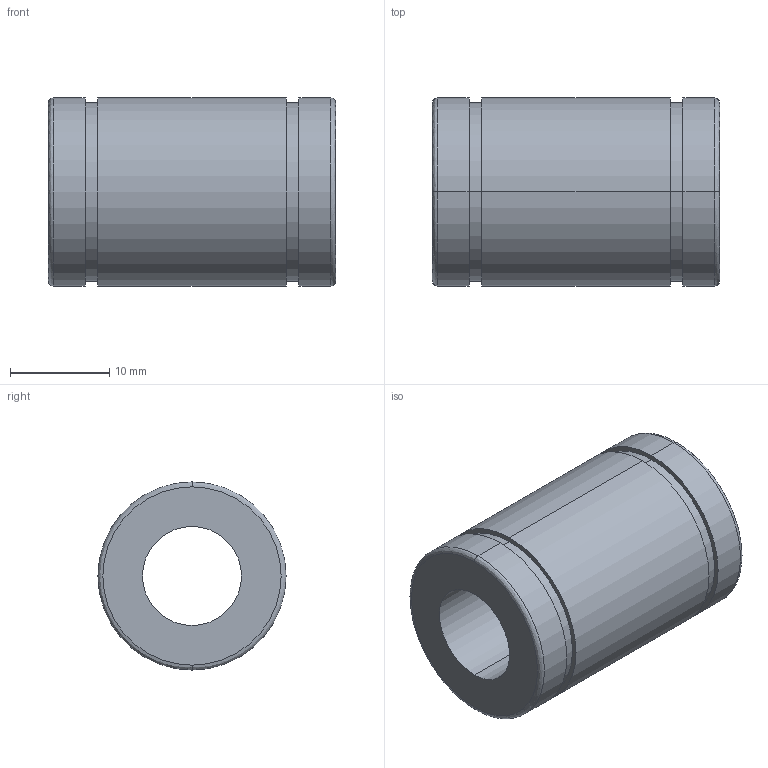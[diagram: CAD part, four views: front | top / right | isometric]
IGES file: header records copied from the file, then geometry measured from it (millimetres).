
Start section: 3D InterOp IGES (Version 21 0 1), Spatial Corp. Copyright (c) 1999-2007.
Global section: file name: SB-10.igs; native system: Spatial Corp.; preprocessor: 3D InterOp GENERIC/IGES 3.0; author: Noname; organization: Noname; date: 20220217.090604; units: millimetre
Bounding box: 29 x 19 x 19 mm (x, y, z)
Surface area: 3134.3 mm2 (no closed solid volume)
Topology: 0 solids, 0 shells, 22 faces, 88 edges, 88 vertices
Faces by surface type: revolution 16, extrusion 6
